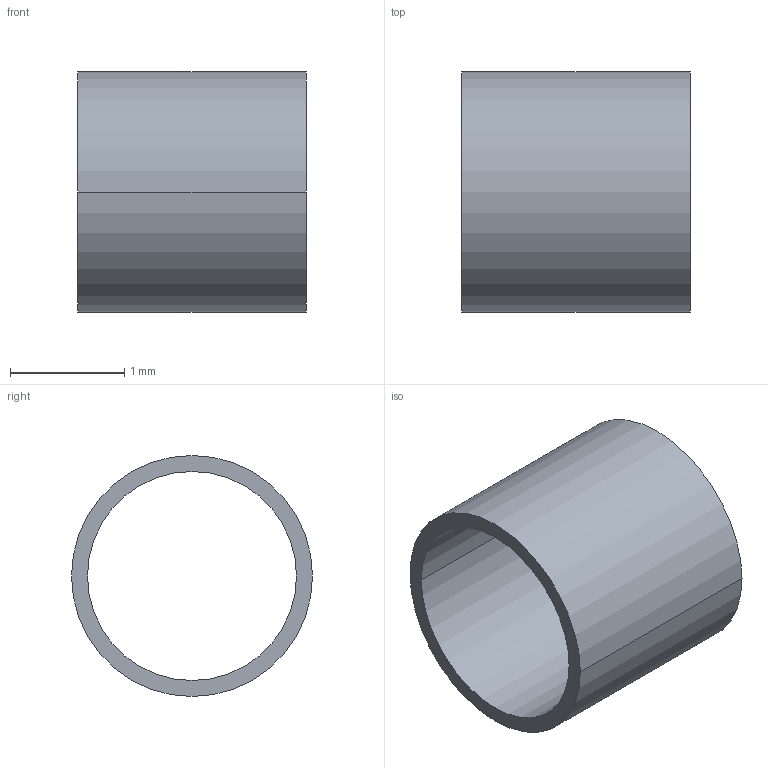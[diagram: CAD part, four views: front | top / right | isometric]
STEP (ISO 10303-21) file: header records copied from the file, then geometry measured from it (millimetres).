
FILE_DESCRIPTION(/* description */ ('(C) Elphel, Inc. 2012. Licensed under CERN OHL v.1.1 or later, see http://ohwr.org/cernohl'),/* implementation_level */ '2;1');
FILE_NAME(/* name */ '0353-23-06',/* time_stamp */ '2012-02-06T02:01:52-07:00',/* author */ (''),/* organization */ ('Elphel, Inc'),/* preprocessor_version */ 'ST-DEVELOPER v12',/* originating_system */ 'VariCAD 2010-3.03; kernel version (20100102)',/* authorisation */ '');
FILE_SCHEMA (('AUTOMOTIVE_DESIGN'));
Length unit declared in the file: millimetre
Products named in the file (1): Part
Bounding box: 2 x 2.11 x 2.11 mm (x, y, z)
Volume: 1.7 mm3; surface area: 26.5 mm2
Topology: 1 solids, 1 shells, 6 faces, 12 edges, 8 vertices
Faces by surface type: cylinder 4, plane 2
Entity records: 195 total; most frequent: DIRECTION 36, CARTESIAN_POINT 28, ORIENTED_EDGE 24, AXIS2_PLACEMENT_3D 16, EDGE_CURVE 12, EDGE_LOOP 8, CIRCLE 8, VERTEX_POINT 8
